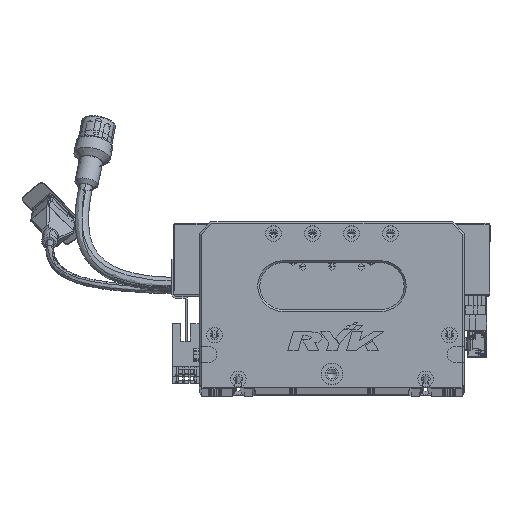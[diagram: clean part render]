
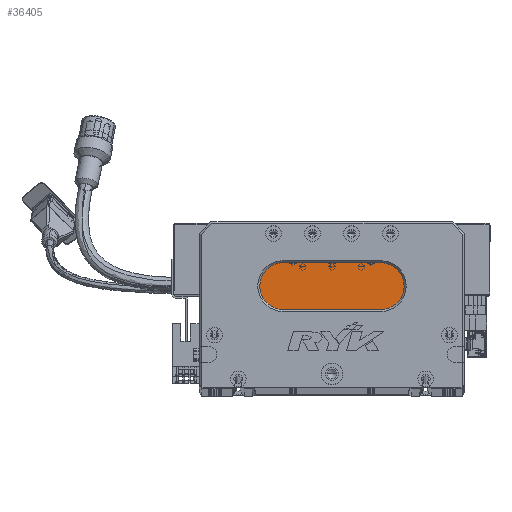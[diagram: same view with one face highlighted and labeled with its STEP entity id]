
A CAD part, top view. The second image highlights one B-rep face of the part: STEP entity #36405.
In plain terms, the highlighted planar face has unit normal (0, 0, 1) as drawn and (0, 0, -1) by its records, which use the part's own axes.
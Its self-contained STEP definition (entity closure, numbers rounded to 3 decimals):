
#4653 = VERTEX_POINT ( 'NONE', #74177 ) ;
#5217 = VECTOR ( 'NONE', #81158, 1000. ) ;
#8211 = LINE ( 'NONE', #42459, #5217 ) ;
#10516 = DIRECTION ( 'NONE',  ( -1., 0., 0. ) ) ;
#18190 = CIRCLE ( 'NONE', #68411, 12. ) ;
#19760 = DIRECTION ( 'NONE',  ( 0., 0., -1. ) ) ;
#20868 = VERTEX_POINT ( 'NONE', #68860 ) ;
#22580 = VECTOR ( 'NONE', #48530, 1000. ) ;
#25512 = FACE_OUTER_BOUND ( 'NONE', #31124, .T. ) ;
#26193 = VERTEX_POINT ( 'NONE', #32905 ) ;
#31124 = EDGE_LOOP ( 'NONE', ( #110401, #93063, #75870, #48365, #49993 ) ) ;
#32905 = CARTESIAN_POINT ( 'NONE',  ( 31., 52., 13. ) ) ;
#33140 = DIRECTION ( 'NONE',  ( -1., 0., 0. ) ) ;
#33819 = CIRCLE ( 'NONE', #62766, 12. ) ;
#36065 = VERTEX_POINT ( 'NONE', #110212 ) ;
#36405 = ADVANCED_FACE ( 'NONE', ( #25512 ), #114734, .T. ) ;
#40283 = AXIS2_PLACEMENT_3D ( 'NONE', #115156, #57112, #124845 ) ;
#41562 = DIRECTION ( 'NONE',  ( 0., 0., -1. ) ) ;
#42459 = CARTESIAN_POINT ( 'NONE',  ( 93., 64., 13. ) ) ;
#46509 = CARTESIAN_POINT ( 'NONE',  ( 43., 64., 13. ) ) ;
#47329 = DIRECTION ( 'NONE',  ( -1., 0., 0. ) ) ;
#48365 = ORIENTED_EDGE ( 'NONE', *, *, #103828, .T. ) ;
#48530 = DIRECTION ( 'NONE',  ( -1., 0., 0. ) ) ;
#49993 = ORIENTED_EDGE ( 'NONE', *, *, #98177, .T. ) ;
#55762 = DIRECTION ( 'NONE',  ( 0., 0., -1. ) ) ;
#55855 = EDGE_CURVE ( 'NONE', #20868, #26193, #33819, .T. ) ;
#57112 = DIRECTION ( 'NONE',  ( 0., 0., -1. ) ) ;
#62766 = AXIS2_PLACEMENT_3D ( 'NONE', #108482, #41562, #33140 ) ;
#65050 = EDGE_CURVE ( 'NONE', #36065, #20868, #87292, .T. ) ;
#67106 = CARTESIAN_POINT ( 'NONE',  ( 43., 52., 13. ) ) ;
#68411 = AXIS2_PLACEMENT_3D ( 'NONE', #67106, #55762, #47329 ) ;
#68860 = CARTESIAN_POINT ( 'NONE',  ( 43., 40., 13. ) ) ;
#74177 = CARTESIAN_POINT ( 'NONE',  ( 93., 64., 13. ) ) ;
#75870 = ORIENTED_EDGE ( 'NONE', *, *, #55855, .T. ) ;
#81158 = DIRECTION ( 'NONE',  ( 1., 0., 0. ) ) ;
#87292 = LINE ( 'NONE', #117099, #22580 ) ;
#93063 = ORIENTED_EDGE ( 'NONE', *, *, #65050, .T. ) ;
#98012 = CARTESIAN_POINT ( 'NONE',  ( 93., 52., 13. ) ) ;
#98177 = EDGE_CURVE ( 'NONE', #102134, #4653, #8211, .T. ) ;
#100734 = CIRCLE ( 'NONE', #117556, 12. ) ;
#102134 = VERTEX_POINT ( 'NONE', #46509 ) ;
#103828 = EDGE_CURVE ( 'NONE', #26193, #102134, #18190, .T. ) ;
#108482 = CARTESIAN_POINT ( 'NONE',  ( 43., 52., 13. ) ) ;
#110212 = CARTESIAN_POINT ( 'NONE',  ( 93., 40., 13. ) ) ;
#110401 = ORIENTED_EDGE ( 'NONE', *, *, #114761, .T. ) ;
#114734 = PLANE ( 'NONE',  #40283 ) ;
#114761 = EDGE_CURVE ( 'NONE', #4653, #36065, #100734, .T. ) ;
#115156 = CARTESIAN_POINT ( 'NONE',  ( 93., 52., 13. ) ) ;
#117099 = CARTESIAN_POINT ( 'NONE',  ( 93., 40., 13. ) ) ;
#117556 = AXIS2_PLACEMENT_3D ( 'NONE', #98012, #19760, #10516 ) ;
#124845 = DIRECTION ( 'NONE',  ( -1., 0., 0. ) ) ;
